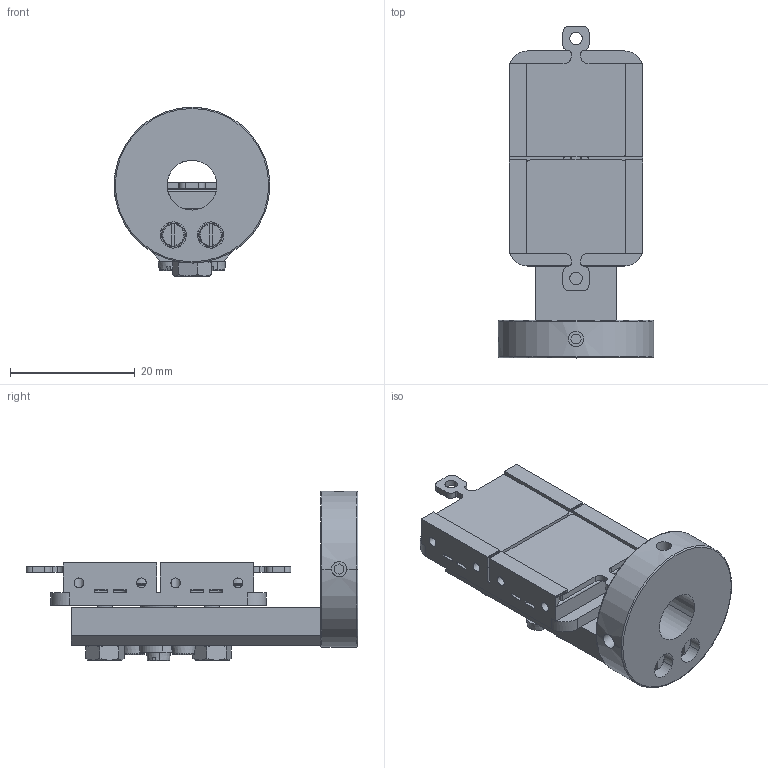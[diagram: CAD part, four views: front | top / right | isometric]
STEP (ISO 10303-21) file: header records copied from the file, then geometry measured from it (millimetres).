
FILE_DESCRIPTION(('CATIA V5 STEP Exchange','CAx-IF Rec.Pracs.--- Model Styling and Organization---1.2---2011-12-15'),'2;1');
FILE_NAME('W:\KONSTRUKTION\PRODUCTS\RSC\RSC2OM\RSC2OM.stp','2022-04-19T10:42:11+00:00',('none'),('none'),'CATIA Version 5 Release 21 SP 6 (IN-10)','CATIA V5 STEP AP214 Edition 3','none');
FILE_SCHEMA(('AUTOMOTIVE_DESIGN { 1 0 10303 214 3 1 1 1 }'));
Length unit declared in the file: millimetre
Products named in the file (1): RSC2OM_AllCATPart
Bounding box: 25 x 53.25 x 27.2 mm (x, y, z)
Volume: 9388.7 mm3; surface area: 9119.6 mm2
Topology: 4 solids, 12 shells, 934 faces, 2600 edges, 1650 vertices
Faces by surface type: plane 295, cylinder 260, sphere 160, cone 128, torus 91
Entity records: 30745 total; most frequent: CARTESIAN_POINT 8530, ORIENTED_EDGE 5128, DIRECTION 3571, EDGE_CURVE 2564, AXIS2_PLACEMENT_3D 1816, VERTEX_POINT 1650, EDGE_LOOP 1090, CIRCLE 998
